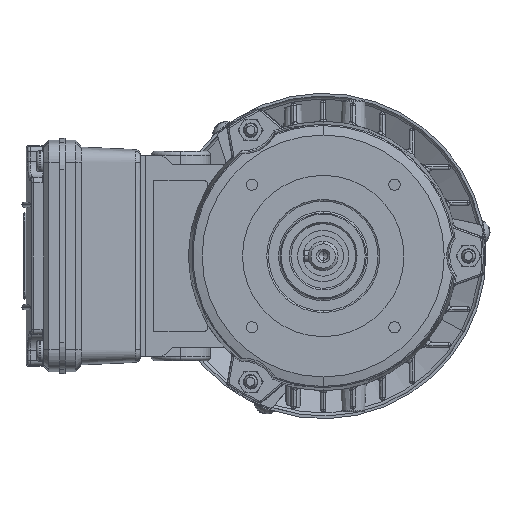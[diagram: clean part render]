
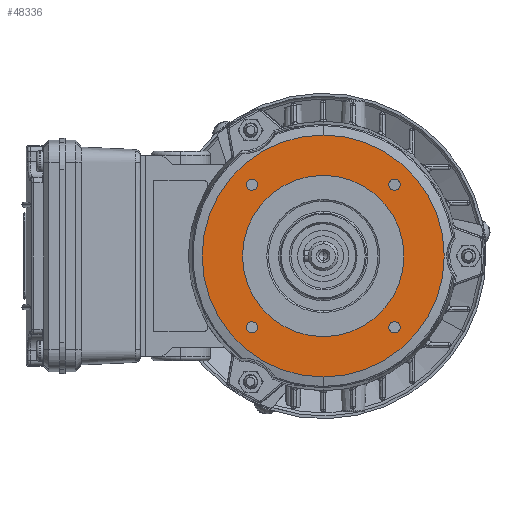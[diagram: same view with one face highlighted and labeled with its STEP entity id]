
A CAD part, left-side view. The second image highlights one B-rep face of the part: STEP entity #48336.
In plain terms, the highlighted planar face has unit normal (-1, 0, 0) as drawn and (0, -1, 0) by its records, which use the part's own axes.
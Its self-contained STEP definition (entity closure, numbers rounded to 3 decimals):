
#355 = EDGE_LOOP ( 'NONE', ( #86258, #94502 ) ) ;
#583 = AXIS2_PLACEMENT_3D ( 'NONE', #38446, #102503, #47645 ) ;
#749 = AXIS2_PLACEMENT_3D ( 'NONE', #84348, #29519, #93613 ) ;
#1782 = CARTESIAN_POINT ( 'NONE',  ( -26.517, 2.5, 28.617 ) ) ;
#2712 = DIRECTION ( 'NONE',  ( 0., 1., 0. ) ) ;
#5935 = DIRECTION ( 'NONE',  ( 0., 1., 0. ) ) ;
#6499 = FACE_BOUND ( 'NONE', #59361, .T. ) ;
#7055 = VERTEX_POINT ( 'NONE', #41173 ) ;
#8836 = CIRCLE ( 'NONE', #77982, 2.1 ) ;
#9419 = FACE_BOUND ( 'NONE', #103811, .T. ) ;
#10879 = EDGE_CURVE ( 'NONE', #7055, #45801, #52021, .T. ) ;
#11433 = AXIS2_PLACEMENT_3D ( 'NONE', #84941, #30062, #94186 ) ;
#13043 = CARTESIAN_POINT ( 'NONE',  ( -26.517, 2.5, 24.417 ) ) ;
#13231 = EDGE_CURVE ( 'NONE', #20890, #61027, #8836, .T. ) ;
#14634 = VERTEX_POINT ( 'NONE', #26879 ) ;
#16154 = EDGE_CURVE ( 'NONE', #33667, #113178, #49916, .T. ) ;
#19850 = DIRECTION ( 'NONE',  ( 0., 1., 0. ) ) ;
#20890 = VERTEX_POINT ( 'NONE', #65323 ) ;
#22617 = DIRECTION ( 'NONE',  ( 0., 1., 0. ) ) ;
#22833 = CIRCLE ( 'NONE', #40404, 45. ) ;
#23084 = VERTEX_POINT ( 'NONE', #1782 ) ;
#23336 = EDGE_CURVE ( 'NONE', #45003, #23084, #73246, .T. ) ;
#24085 = CARTESIAN_POINT ( 'NONE',  ( -26.517, 2.5, -26.517 ) ) ;
#24570 = DIRECTION ( 'NONE',  ( 0., 1., 0. ) ) ;
#26122 = ORIENTED_EDGE ( 'NONE', *, *, #79174, .T. ) ;
#26879 = CARTESIAN_POINT ( 'NONE',  ( 26.517, 2.5, 28.617 ) ) ;
#27158 = CARTESIAN_POINT ( 'NONE',  ( 26.517, 2.5, -24.417 ) ) ;
#27423 = AXIS2_PLACEMENT_3D ( 'NONE', #98680, #43855, #107913 ) ;
#27949 = ORIENTED_EDGE ( 'NONE', *, *, #111688, .T. ) ;
#28085 = FACE_BOUND ( 'NONE', #42594, .T. ) ;
#29519 = DIRECTION ( 'NONE',  ( 0., 1., 0. ) ) ;
#30062 = DIRECTION ( 'NONE',  ( 0., 1., 0. ) ) ;
#30893 = CIRCLE ( 'NONE', #749, 2.1 ) ;
#30977 = CIRCLE ( 'NONE', #79643, 30. ) ;
#33209 = DIRECTION ( 'NONE',  ( 0., 0., 1. ) ) ;
#33667 = VERTEX_POINT ( 'NONE', #96170 ) ;
#33977 = EDGE_CURVE ( 'NONE', #75071, #81971, #22833, .T. ) ;
#34954 = EDGE_CURVE ( 'NONE', #81971, #75071, #101375, .T. ) ;
#36067 = EDGE_CURVE ( 'NONE', #113178, #33667, #30977, .T. ) ;
#36841 = EDGE_CURVE ( 'NONE', #45801, #7055, #55185, .T. ) ;
#38358 = DIRECTION ( 'NONE',  ( 0., 1., 0. ) ) ;
#38446 = CARTESIAN_POINT ( 'NONE',  ( 0., 2.5, 0. ) ) ;
#40404 = AXIS2_PLACEMENT_3D ( 'NONE', #57564, #2712, #66820 ) ;
#40714 = VERTEX_POINT ( 'NONE', #72036 ) ;
#40977 = ORIENTED_EDGE ( 'NONE', *, *, #36067, .T. ) ;
#41173 = CARTESIAN_POINT ( 'NONE',  ( 26.517, 2.5, -28.617 ) ) ;
#42275 = ORIENTED_EDGE ( 'NONE', *, *, #23336, .T. ) ;
#42594 = EDGE_LOOP ( 'NONE', ( #40977, #105995 ) ) ;
#43855 = DIRECTION ( 'NONE',  ( 0., 1., 0. ) ) ;
#45003 = VERTEX_POINT ( 'NONE', #13043 ) ;
#45801 = VERTEX_POINT ( 'NONE', #27158 ) ;
#47645 = DIRECTION ( 'NONE',  ( 0., 0., 1. ) ) ;
#47677 = DIRECTION ( 'NONE',  ( 0., 1., 0. ) ) ;
#48336 = ADVANCED_FACE ( 'NONE', ( #9419, #6499, #76758, #101106, #52375, #28085 ), #72657, .F. ) ;
#49916 = CIRCLE ( 'NONE', #104291, 30. ) ;
#52021 = CIRCLE ( 'NONE', #76186, 2.1 ) ;
#52375 = FACE_OUTER_BOUND ( 'NONE', #355, .T. ) ;
#53938 = DIRECTION ( 'NONE',  ( 0., 1., 0. ) ) ;
#55185 = CIRCLE ( 'NONE', #11433, 2.1 ) ;
#57564 = CARTESIAN_POINT ( 'NONE',  ( 0., 2.5, 0. ) ) ;
#59361 = EDGE_LOOP ( 'NONE', ( #63138, #76498 ) ) ;
#60805 = CARTESIAN_POINT ( 'NONE',  ( 26.517, 2.5, -26.517 ) ) ;
#61027 = VERTEX_POINT ( 'NONE', #79617 ) ;
#62715 = EDGE_CURVE ( 'NONE', #40714, #14634, #30893, .T. ) ;
#63138 = ORIENTED_EDGE ( 'NONE', *, *, #36841, .T. ) ;
#65309 = CIRCLE ( 'NONE', #95347, 2.1 ) ;
#65323 = CARTESIAN_POINT ( 'NONE',  ( -26.517, 2.5, -28.617 ) ) ;
#66820 = DIRECTION ( 'NONE',  ( 0., 0., 1. ) ) ;
#70013 = DIRECTION ( 'NONE',  ( 0., 0., 1. ) ) ;
#71806 = ORIENTED_EDGE ( 'NONE', *, *, #74276, .T. ) ;
#72036 = CARTESIAN_POINT ( 'NONE',  ( 26.517, 2.5, 24.417 ) ) ;
#72657 = PLANE ( 'NONE',  #96019 ) ;
#73246 = CIRCLE ( 'NONE', #92560, 2.1 ) ;
#74276 = EDGE_CURVE ( 'NONE', #61027, #20890, #65309, .T. ) ;
#74675 = CARTESIAN_POINT ( 'NONE',  ( 30., 2.5, 0. ) ) ;
#75071 = VERTEX_POINT ( 'NONE', #81313 ) ;
#76186 = AXIS2_PLACEMENT_3D ( 'NONE', #60805, #5935, #70013 ) ;
#76498 = ORIENTED_EDGE ( 'NONE', *, *, #10879, .T. ) ;
#76758 = FACE_BOUND ( 'NONE', #82026, .T. ) ;
#77385 = CARTESIAN_POINT ( 'NONE',  ( 0., 2.5, 0. ) ) ;
#77982 = AXIS2_PLACEMENT_3D ( 'NONE', #24085, #88138, #33209 ) ;
#79174 = EDGE_CURVE ( 'NONE', #23084, #45003, #85930, .T. ) ;
#79399 = CARTESIAN_POINT ( 'NONE',  ( -26.517, 2.5, 26.517 ) ) ;
#79617 = CARTESIAN_POINT ( 'NONE',  ( -26.517, 2.5, -24.417 ) ) ;
#79643 = AXIS2_PLACEMENT_3D ( 'NONE', #77385, #22617, #86662 ) ;
#81313 = CARTESIAN_POINT ( 'NONE',  ( 0., 2.5, -45. ) ) ;
#81971 = VERTEX_POINT ( 'NONE', #110481 ) ;
#82026 = EDGE_LOOP ( 'NONE', ( #27949, #102869 ) ) ;
#83895 = DIRECTION ( 'NONE',  ( 0., 0., 1. ) ) ;
#84348 = CARTESIAN_POINT ( 'NONE',  ( 26.517, 2.5, 26.517 ) ) ;
#84941 = CARTESIAN_POINT ( 'NONE',  ( 26.517, 2.5, -26.517 ) ) ;
#85450 = CIRCLE ( 'NONE', #94703, 2.1 ) ;
#85930 = CIRCLE ( 'NONE', #27423, 2.1 ) ;
#86013 = ORIENTED_EDGE ( 'NONE', *, *, #13231, .T. ) ;
#86258 = ORIENTED_EDGE ( 'NONE', *, *, #34954, .F. ) ;
#86662 = DIRECTION ( 'NONE',  ( 0., 0., 1. ) ) ;
#88138 = DIRECTION ( 'NONE',  ( 0., 1., 0. ) ) ;
#88610 = DIRECTION ( 'NONE',  ( 0., 0., 1. ) ) ;
#92560 = AXIS2_PLACEMENT_3D ( 'NONE', #79399, #24570, #88610 ) ;
#93254 = CARTESIAN_POINT ( 'NONE',  ( 0., 2.5, 0. ) ) ;
#93613 = DIRECTION ( 'NONE',  ( 0., 0., 1. ) ) ;
#94186 = DIRECTION ( 'NONE',  ( 0., 0., 1. ) ) ;
#94502 = ORIENTED_EDGE ( 'NONE', *, *, #33977, .F. ) ;
#94703 = AXIS2_PLACEMENT_3D ( 'NONE', #102538, #47677, #111721 ) ;
#95347 = AXIS2_PLACEMENT_3D ( 'NONE', #108805, #53938, #118034 ) ;
#96019 = AXIS2_PLACEMENT_3D ( 'NONE', #74675, #19850, #83895 ) ;
#96170 = CARTESIAN_POINT ( 'NONE',  ( 0., 2.5, -30. ) ) ;
#98680 = CARTESIAN_POINT ( 'NONE',  ( -26.517, 2.5, 26.517 ) ) ;
#101106 = FACE_BOUND ( 'NONE', #109107, .T. ) ;
#101375 = CIRCLE ( 'NONE', #583, 45. ) ;
#102143 = CARTESIAN_POINT ( 'NONE',  ( 0., 2.5, 30. ) ) ;
#102418 = DIRECTION ( 'NONE',  ( 0., 0., 1. ) ) ;
#102503 = DIRECTION ( 'NONE',  ( 0., 1., 0. ) ) ;
#102538 = CARTESIAN_POINT ( 'NONE',  ( 26.517, 2.5, 26.517 ) ) ;
#102869 = ORIENTED_EDGE ( 'NONE', *, *, #62715, .T. ) ;
#103811 = EDGE_LOOP ( 'NONE', ( #71806, #86013 ) ) ;
#104291 = AXIS2_PLACEMENT_3D ( 'NONE', #93254, #38358, #102418 ) ;
#105995 = ORIENTED_EDGE ( 'NONE', *, *, #16154, .T. ) ;
#107913 = DIRECTION ( 'NONE',  ( 0., 0., 1. ) ) ;
#108805 = CARTESIAN_POINT ( 'NONE',  ( -26.517, 2.5, -26.517 ) ) ;
#109107 = EDGE_LOOP ( 'NONE', ( #26122, #42275 ) ) ;
#110481 = CARTESIAN_POINT ( 'NONE',  ( 0., 2.5, 45. ) ) ;
#111688 = EDGE_CURVE ( 'NONE', #14634, #40714, #85450, .T. ) ;
#111721 = DIRECTION ( 'NONE',  ( 0., 0., 1. ) ) ;
#113178 = VERTEX_POINT ( 'NONE', #102143 ) ;
#118034 = DIRECTION ( 'NONE',  ( 0., 0., 1. ) ) ;
